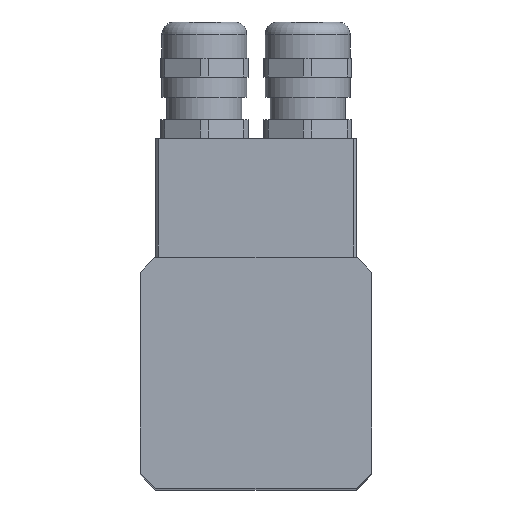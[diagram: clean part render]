
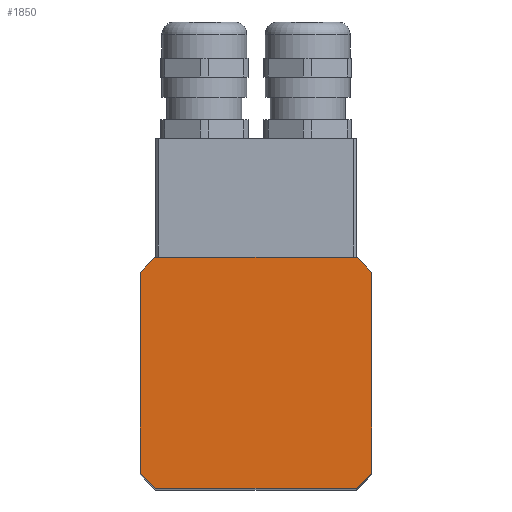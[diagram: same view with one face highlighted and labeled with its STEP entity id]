
A CAD part, top view. The second image highlights one B-rep face of the part: STEP entity #1850.
In plain terms, the highlighted planar face has unit normal (0, 0, 1).
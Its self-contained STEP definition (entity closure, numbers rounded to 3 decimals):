
#1519=CARTESIAN_POINT('',(-18.5,16.062,141.0));
#1520=VERTEX_POINT('',#1519);
#1529=CARTESIAN_POINT('',(-16.062,18.5,141.0));
#1530=VERTEX_POINT('',#1529);
#1531=CARTESIAN_POINT('',(0.0,0.0,141.0));
#1532=DIRECTION('',(0.0,0.0,1.0));
#1533=DIRECTION('',(1.0,0.0,0.0));
#1534=AXIS2_PLACEMENT_3D('',#1531,#1532,#1533);
#1535=CIRCLE('',#1534,24.5);
#1536=EDGE_CURVE('',#1530,#1520,#1535,.T.);
#1563=CARTESIAN_POINT('',(18.5,16.062,141.0));
#1564=VERTEX_POINT('',#1563);
#1580=CARTESIAN_POINT('',(16.062,18.5,141.0));
#1581=VERTEX_POINT('',#1580);
#1588=CARTESIAN_POINT('',(0.0,0.0,141.0));
#1589=DIRECTION('',(0.0,0.0,1.0));
#1590=DIRECTION('',(1.0,0.0,0.0));
#1591=AXIS2_PLACEMENT_3D('',#1588,#1589,#1590);
#1592=CIRCLE('',#1591,24.5);
#1593=EDGE_CURVE('',#1564,#1581,#1592,.T.);
#1603=CARTESIAN_POINT('',(-16.062,-18.5,141.0));
#1604=VERTEX_POINT('',#1603);
#1613=CARTESIAN_POINT('',(-18.5,-16.062,141.0));
#1614=VERTEX_POINT('',#1613);
#1615=CARTESIAN_POINT('',(0.0,0.0,141.0));
#1616=DIRECTION('',(0.0,0.0,1.0));
#1617=DIRECTION('',(1.0,0.0,0.0));
#1618=AXIS2_PLACEMENT_3D('',#1615,#1616,#1617);
#1619=CIRCLE('',#1618,24.5);
#1620=EDGE_CURVE('',#1614,#1604,#1619,.T.);
#1645=CARTESIAN_POINT('',(18.5,-16.062,141.0));
#1646=VERTEX_POINT('',#1645);
#1655=CARTESIAN_POINT('',(16.062,-18.5,141.0));
#1656=VERTEX_POINT('',#1655);
#1657=CARTESIAN_POINT('',(0.0,0.0,141.0));
#1658=DIRECTION('',(0.0,0.0,1.0));
#1659=DIRECTION('',(1.0,0.0,0.0));
#1660=AXIS2_PLACEMENT_3D('',#1657,#1658,#1659);
#1661=CIRCLE('',#1660,24.5);
#1662=EDGE_CURVE('',#1656,#1646,#1661,.T.);
#1695=CARTESIAN_POINT('',(-18.5,-16.062,141.0));
#1696=DIRECTION('',(0.0,1.0,0.0));
#1697=VECTOR('',#1696,32.125);
#1698=LINE('',#1695,#1697);
#1699=EDGE_CURVE('',#1614,#1520,#1698,.T.);
#1729=CARTESIAN_POINT('',(16.062,-18.5,141.0));
#1730=DIRECTION('',(-1.0,0.0,0.0));
#1731=VECTOR('',#1730,32.125);
#1732=LINE('',#1729,#1731);
#1733=EDGE_CURVE('',#1656,#1604,#1732,.T.);
#1785=CARTESIAN_POINT('',(18.5,16.062,141.0));
#1786=DIRECTION('',(0.0,-1.0,0.0));
#1787=VECTOR('',#1786,32.125);
#1788=LINE('',#1785,#1787);
#1789=EDGE_CURVE('',#1564,#1646,#1788,.T.);
#1814=CARTESIAN_POINT('',(-16.062,18.5,141.0));
#1815=DIRECTION('',(1.0,0.0,0.0));
#1816=VECTOR('',#1815,32.125);
#1817=LINE('',#1814,#1816);
#1818=EDGE_CURVE('',#1530,#1581,#1817,.T.);
#1835=CARTESIAN_POINT('',(0.,0.,141.0));
#1836=DIRECTION('',(0.0,0.0,1.0));
#1837=DIRECTION('',(1.0,0.0,0.0));
#1838=AXIS2_PLACEMENT_3D('',#1835,#1836,#1837);
#1839=PLANE('',#1838);
#1840=ORIENTED_EDGE('',*,*,#1536,.T.);
#1841=ORIENTED_EDGE('',*,*,#1699,.F.);
#1842=ORIENTED_EDGE('',*,*,#1620,.T.);
#1843=ORIENTED_EDGE('',*,*,#1733,.F.);
#1844=ORIENTED_EDGE('',*,*,#1662,.T.);
#1845=ORIENTED_EDGE('',*,*,#1789,.F.);
#1846=ORIENTED_EDGE('',*,*,#1593,.T.);
#1847=ORIENTED_EDGE('',*,*,#1818,.F.);
#1848=EDGE_LOOP('',(#1840,#1841,#1842,#1843,#1844,#1845,#1846,#1847));
#1849=FACE_OUTER_BOUND('',#1848,.T.);
#1850=ADVANCED_FACE('',(#1849),#1839,.T.);
